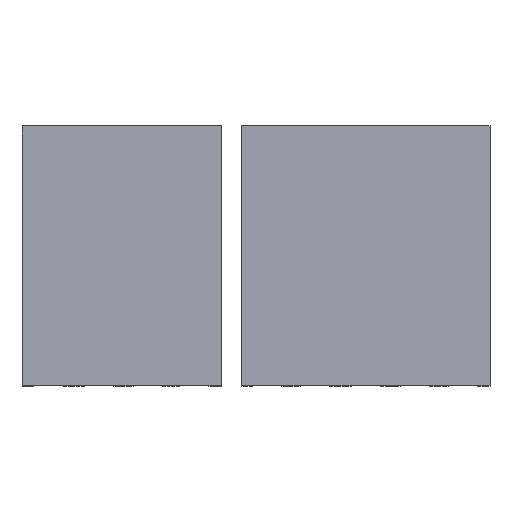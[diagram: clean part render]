
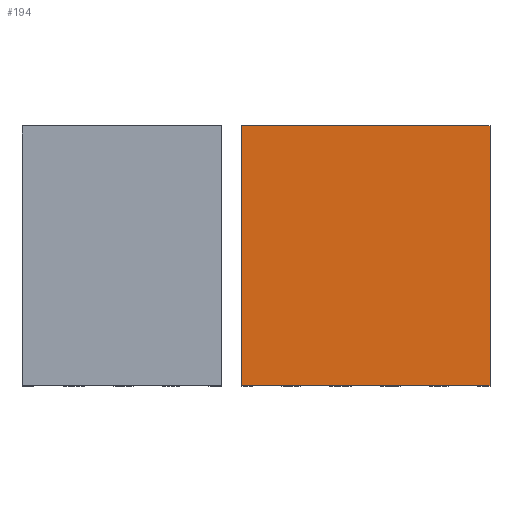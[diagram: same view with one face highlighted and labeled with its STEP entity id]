
A CAD part, top view. The second image highlights one B-rep face of the part: STEP entity #194.
In plain terms, the highlighted planar face has unit normal (0, 0, 1).
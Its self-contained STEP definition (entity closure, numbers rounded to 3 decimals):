
#194=ADVANCED_FACE('',(#436),#438,.T.);
#436=FACE_BOUND('',#437,.T.);
#437=EDGE_LOOP('',(#624,#625,#626,#627));
#438=PLANE('',#439);
#439=AXIS2_PLACEMENT_3D('',#440,#441,#442);
#440=CARTESIAN_POINT('',(0.,0.,3.));
#441=DIRECTION('',(0.,0.,1.));
#442=DIRECTION('',(1.,0.,0.));
#624=ORIENTED_EDGE('',*,*,#744,.T.);
#625=ORIENTED_EDGE('',*,*,#729,.T.);
#626=ORIENTED_EDGE('',*,*,#745,.T.);
#627=ORIENTED_EDGE('',*,*,#707,.T.);
#707=EDGE_CURVE('',#789,#787,#790,.T.);
#729=EDGE_CURVE('',#833,#831,#834,.T.);
#744=EDGE_CURVE('',#787,#833,#850,.F.);
#745=EDGE_CURVE('',#831,#789,#851,.T.);
#787=VERTEX_POINT('',#922);
#789=VERTEX_POINT('',#926);
#790=LINE('',#927,#928);
#831=VERTEX_POINT('',#1019);
#833=VERTEX_POINT('',#1023);
#834=LINE('',#1024,#1025);
#850=LINE('',#1070,#1071);
#851=LINE('',#1073,#1074);
#922=CARTESIAN_POINT('',(21.148,25.,3.));
#926=CARTESIAN_POINT('',(45.,25.,3.));
#927=CARTESIAN_POINT('',(45.,25.,3.));
#928=VECTOR('',#929,1.);
#929=DIRECTION('',(-1.,0.,0.));
#1019=CARTESIAN_POINT('',(45.,0.,3.));
#1023=CARTESIAN_POINT('',(21.148,0.,3.));
#1024=CARTESIAN_POINT('',(21.148,0.,3.));
#1025=VECTOR('',#1026,1.);
#1026=DIRECTION('',(1.,0.,0.));
#1070=CARTESIAN_POINT('',(21.148,0.,3.));
#1071=VECTOR('',#1072,1.);
#1072=DIRECTION('',(0.,1.,0.));
#1073=CARTESIAN_POINT('',(45.,0.,3.));
#1074=VECTOR('',#1075,1.);
#1075=DIRECTION('',(0.,1.,0.));
